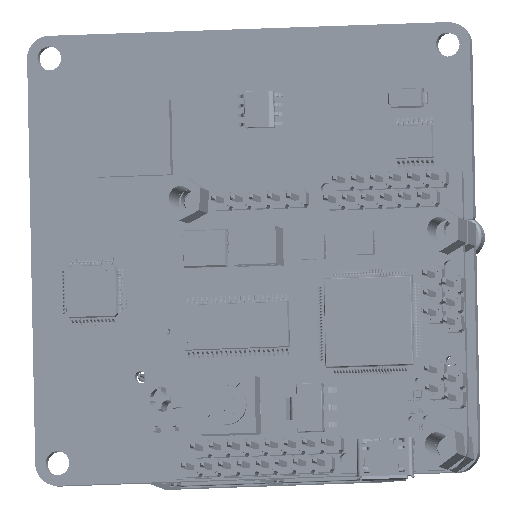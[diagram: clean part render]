
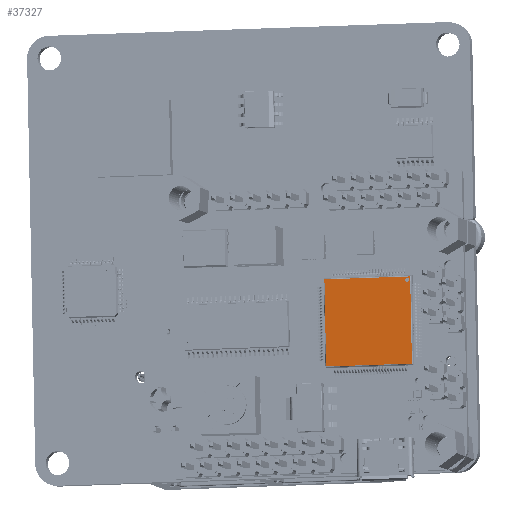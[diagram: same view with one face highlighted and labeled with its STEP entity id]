
A CAD part, top view. The second image highlights one B-rep face of the part: STEP entity #37327.
In plain terms, the highlighted planar face has unit normal (-0.191, 0.068, 0.979) as drawn and (0, 0, 1) by its records, which use the part's own axes.
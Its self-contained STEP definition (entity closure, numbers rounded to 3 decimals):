
#6096 = DIRECTION ( 'NONE',  ( 0., 0., 1. ) ) ;
#16804 = AXIS2_PLACEMENT_3D ( 'NONE', #121033, #6096, #479760 ) ;
#37327 = ADVANCED_FACE ( 'NONE', ( #193030, #45876 ), #198181, .F. ) ;
#41880 = LINE ( 'NONE', #221066, #139842 ) ;
#45876 = FACE_BOUND ( 'NONE', #296532, .T. ) ;
#65928 = ORIENTED_EDGE ( 'NONE', *, *, #435735, .F. ) ;
#71244 = EDGE_CURVE ( 'NONE', #115542, #502523, #206441, .T. ) ;
#73857 = CARTESIAN_POINT ( 'NONE',  ( 25.808, 6.85, 1.33 ) ) ;
#78810 = VERTEX_POINT ( 'NONE', #498673 ) ;
#86636 = CARTESIAN_POINT ( 'NONE',  ( 26., 6.85, 1.33 ) ) ;
#94083 = AXIS2_PLACEMENT_3D ( 'NONE', #86636, #241085, #361206 ) ;
#107331 = VERTEX_POINT ( 'NONE', #443995 ) ;
#115542 = VERTEX_POINT ( 'NONE', #129640 ) ;
#121033 = CARTESIAN_POINT ( 'NONE',  ( 25.389, 7.46, 1.33 ) ) ;
#126461 = CARTESIAN_POINT ( 'NONE',  ( 26., 7.041, 1.33 ) ) ;
#129640 = CARTESIAN_POINT ( 'NONE',  ( 25.808, 7.041, 1.33 ) ) ;
#133017 = ORIENTED_EDGE ( 'NONE', *, *, #301911, .F. ) ;
#139842 = VECTOR ( 'NONE', #179811, 1000. ) ;
#173267 = CARTESIAN_POINT ( 'NONE',  ( 14.191, 7.041, 1.33 ) ) ;
#179811 = DIRECTION ( 'NONE',  ( 1., 0., 0. ) ) ;
#187729 = LINE ( 'NONE', #73857, #414804 ) ;
#192216 = DIRECTION ( 'NONE',  ( 0., -1., 0. ) ) ;
#193030 = FACE_OUTER_BOUND ( 'NONE', #222127, .T. ) ;
#198181 = PLANE ( 'NONE',  #94083 ) ;
#206441 = LINE ( 'NONE', #126461, #212346 ) ;
#212346 = VECTOR ( 'NONE', #483489, 1000. ) ;
#214588 = EDGE_CURVE ( 'NONE', #78810, #78810, #358087, .T. ) ;
#214749 = ORIENTED_EDGE ( 'NONE', *, *, #236204, .F. ) ;
#221066 = CARTESIAN_POINT ( 'NONE',  ( 26., 18.658, 1.33 ) ) ;
#222127 = EDGE_LOOP ( 'NONE', ( #65928, #133017, #307535, #214749 ) ) ;
#233992 = VECTOR ( 'NONE', #422400, 1000. ) ;
#236204 = EDGE_CURVE ( 'NONE', #480043, #115542, #187729, .T. ) ;
#241085 = DIRECTION ( 'NONE',  ( 0., 0., -1. ) ) ;
#296532 = EDGE_LOOP ( 'NONE', ( #360871 ) ) ;
#301911 = EDGE_CURVE ( 'NONE', #502523, #107331, #418349, .T. ) ;
#307535 = ORIENTED_EDGE ( 'NONE', *, *, #71244, .F. ) ;
#358087 = CIRCLE ( 'NONE', #16804, 0.264 ) ;
#360871 = ORIENTED_EDGE ( 'NONE', *, *, #214588, .F. ) ;
#361206 = DIRECTION ( 'NONE',  ( 0., -1., 0. ) ) ;
#374625 = CARTESIAN_POINT ( 'NONE',  ( 25.808, 18.658, 1.33 ) ) ;
#414804 = VECTOR ( 'NONE', #192216, 1000. ) ;
#418349 = LINE ( 'NONE', #460095, #233992 ) ;
#422400 = DIRECTION ( 'NONE',  ( 0., 1., 0. ) ) ;
#435735 = EDGE_CURVE ( 'NONE', #107331, #480043, #41880, .T. ) ;
#443995 = CARTESIAN_POINT ( 'NONE',  ( 14.191, 18.658, 1.33 ) ) ;
#460095 = CARTESIAN_POINT ( 'NONE',  ( 14.191, 6.85, 1.33 ) ) ;
#479760 = DIRECTION ( 'NONE',  ( 0., 1., 0. ) ) ;
#480043 = VERTEX_POINT ( 'NONE', #374625 ) ;
#483489 = DIRECTION ( 'NONE',  ( -1., 0., 0. ) ) ;
#498673 = CARTESIAN_POINT ( 'NONE',  ( 25.389, 7.724, 1.33 ) ) ;
#502523 = VERTEX_POINT ( 'NONE', #173267 ) ;
